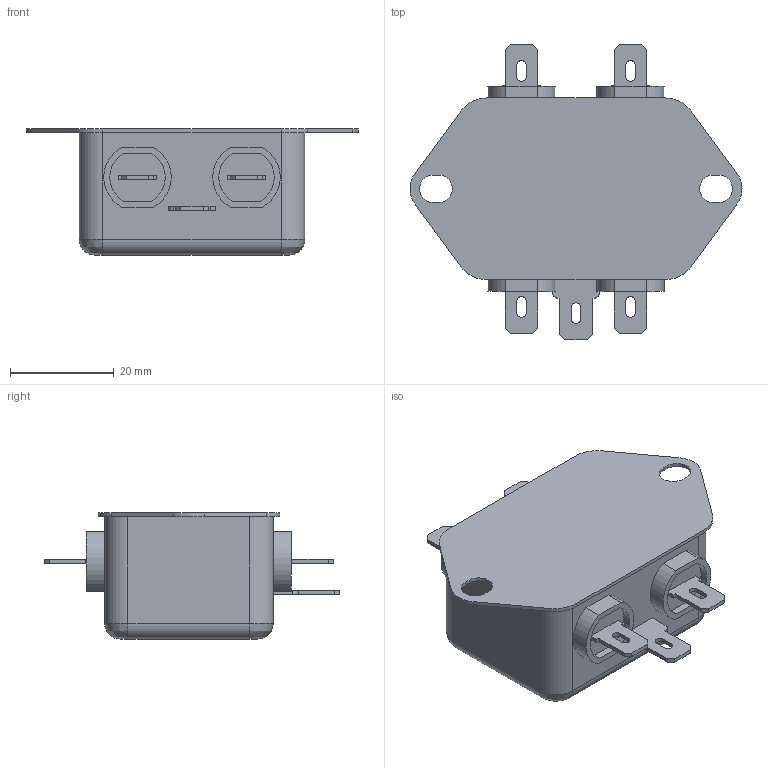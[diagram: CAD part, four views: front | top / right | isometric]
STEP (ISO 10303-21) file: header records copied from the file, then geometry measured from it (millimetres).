
FILE_DESCRIPTION((''),'2;1');
FILE_NAME('K:\Development\Product_FN\FN2010\FN2010-6-06 (291-598)\1_technical_file\3_technical_drawing\FN2010-6-06.stp','2012-08-28T08:58:23',('ice.li'),(''),'Autodesk Inventor 2010','Autodesk Inventor 2010','');
FILE_SCHEMA(('AUTOMOTIVE_DESIGN { 1 0 10303 214 1 1 1 1 }'));
Length unit declared in the file: millimetre
Products named in the file (1): FN2010-6-06
Bounding box: 64 x 56.9 x 24.3 mm (x, y, z)
Volume: 35460.6 mm3; surface area: 8465.7 mm2
Topology: 1 solids, 1 shells, 156 faces, 412 edges, 272 vertices
Faces by surface type: plane 106, cylinder 46, bspline 4
Entity records: 5155 total; most frequent: CARTESIAN_POINT 1017, ORIENTED_EDGE 824, DIRECTION 814, EDGE_CURVE 412, VECTOR 316, LINE 316, VERTEX_POINT 272, AXIS2_PLACEMENT_3D 249
